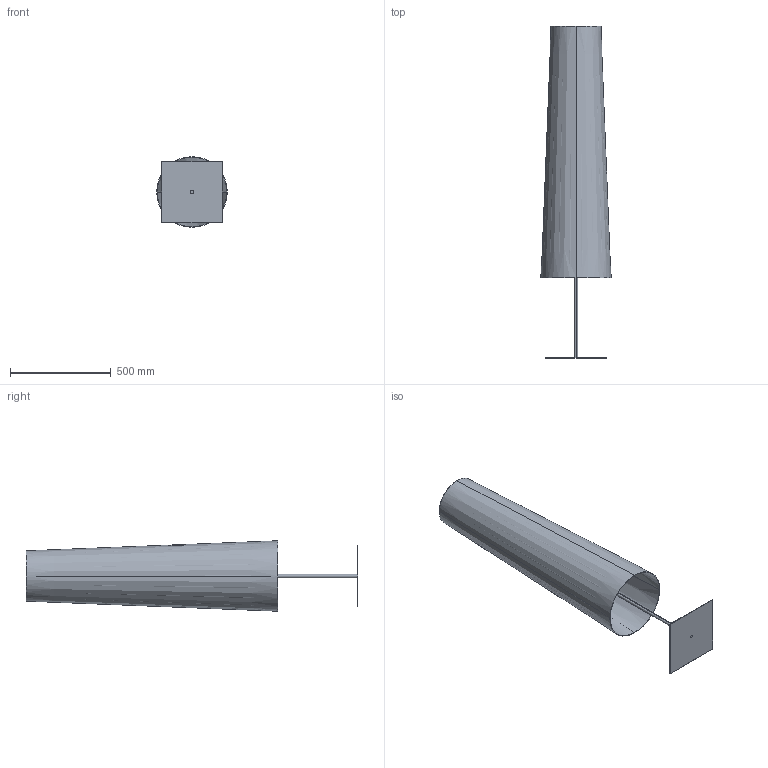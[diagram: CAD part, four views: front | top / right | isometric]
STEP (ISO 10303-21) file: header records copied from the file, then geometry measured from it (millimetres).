
FILE_DESCRIPTION (( 'STEP AP214' ), '1' );
FILE_NAME ('3540_018.STEP', '2017-11-27T10:19:41', ( '' ), ( '' ), 'SwSTEP 2.0', 'SolidWorks 2015', '' );
FILE_SCHEMA (( 'AUTOMOTIVE_DESIGN' ));
Length unit declared in the file: millimetre
Products named in the file (1): 3540_018
Bounding box: 350 x 1649 x 350 mm (x, y, z)
Volume: 2783168.6 mm3; surface area: 2570383.3 mm2
Topology: 3 solids, 4 shells, 25 faces, 54 edges, 34 vertices
Faces by surface type: plane 11, cylinder 6, cone 4, sphere 4
Entity records: 722 total; most frequent: DIRECTION 130, CARTESIAN_POINT 110, ORIENTED_EDGE 100, AXIS2_PLACEMENT_3D 54, EDGE_CURVE 50, VERTEX_POINT 34, CIRCLE 28, EDGE_LOOP 28
